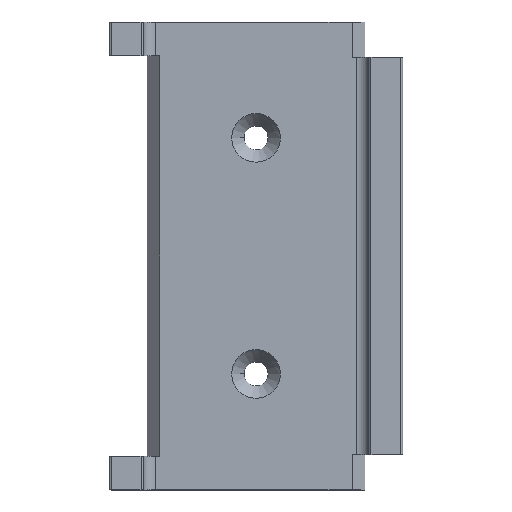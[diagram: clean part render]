
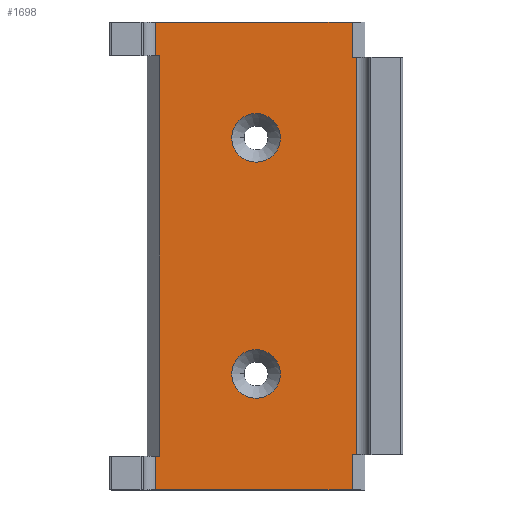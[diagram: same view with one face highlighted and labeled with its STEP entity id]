
A CAD part, top view. The second image highlights one B-rep face of the part: STEP entity #1698.
In plain terms, the highlighted planar face has unit normal (0, 0, 1).
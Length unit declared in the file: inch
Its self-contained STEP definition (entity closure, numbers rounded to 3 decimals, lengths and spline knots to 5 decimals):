
#42=DIRECTION('',(1.,0.,0.));
#43=VECTOR('',#42,1.46);
#44=CARTESIAN_POINT('',(-0.7475,-1.7345,0.));
#45=LINE('',#44,#43);
#403=CARTESIAN_POINT('',(0.0005,-0.8745,0.));
#404=DIRECTION('',(0.,0.,1.));
#405=DIRECTION('',(-1.,0.,0.));
#406=AXIS2_PLACEMENT_3D('',#403,#404,#405);
#408=CARTESIAN_POINT('',(0.0005,-0.8745,0.));
#409=DIRECTION('',(0.,0.,1.));
#410=DIRECTION('',(1.,0.,0.));
#411=AXIS2_PLACEMENT_3D('',#408,#409,#410);
#413=CARTESIAN_POINT('',(0.0005,0.8755,0.));
#414=DIRECTION('',(0.,0.,1.));
#415=DIRECTION('',(-1.,0.,0.));
#416=AXIS2_PLACEMENT_3D('',#413,#414,#415);
#418=CARTESIAN_POINT('',(0.0005,0.8755,0.));
#419=DIRECTION('',(0.,0.,1.));
#420=DIRECTION('',(1.,0.,0.));
#421=AXIS2_PLACEMENT_3D('',#418,#419,#420);
#423=DIRECTION('',(1.,0.,0.));
#424=VECTOR('',#423,0.035);
#425=CARTESIAN_POINT('',(-0.7475,-1.4845,0.));
#426=LINE('',#425,#424);
#427=DIRECTION('',(0.,-1.,0.));
#428=VECTOR('',#427,2.969);
#429=CARTESIAN_POINT('',(-0.7125,1.4845,0.));
#430=LINE('',#429,#428);
#431=DIRECTION('',(1.,0.,0.));
#432=VECTOR('',#431,0.035);
#433=CARTESIAN_POINT('',(-0.7475,1.4845,0.));
#434=LINE('',#433,#432);
#435=DIRECTION('',(0.,1.,0.));
#436=VECTOR('',#435,0.25);
#437=CARTESIAN_POINT('',(-0.7475,1.4845,0.));
#438=LINE('',#437,#436);
#439=DIRECTION('',(0.,-1.,0.));
#440=VECTOR('',#439,0.26);
#441=CARTESIAN_POINT('',(0.7125,1.7345,0.));
#442=LINE('',#441,#440);
#443=DIRECTION('',(-1.,0.,0.));
#444=VECTOR('',#443,0.035);
#445=CARTESIAN_POINT('',(0.7475,1.4745,0.));
#446=LINE('',#445,#444);
#447=DIRECTION('',(0.,1.,0.));
#448=VECTOR('',#447,2.949);
#449=CARTESIAN_POINT('',(0.7475,-1.4745,0.));
#450=LINE('',#449,#448);
#451=DIRECTION('',(-1.,0.,0.));
#452=VECTOR('',#451,0.035);
#453=CARTESIAN_POINT('',(0.7475,-1.4745,0.));
#454=LINE('',#453,#452);
#455=DIRECTION('',(0.,1.,0.));
#456=VECTOR('',#455,0.26);
#457=CARTESIAN_POINT('',(0.7125,-1.7345,0.));
#458=LINE('',#457,#456);
#459=DIRECTION('',(0.,1.,0.));
#460=VECTOR('',#459,0.25);
#461=CARTESIAN_POINT('',(-0.7475,-1.7345,0.));
#462=LINE('',#461,#460);
#664=DIRECTION('',(1.,0.,0.));
#665=VECTOR('',#664,1.46);
#666=CARTESIAN_POINT('',(-0.7475,1.7345,0.));
#667=LINE('',#666,#665);
#897=CARTESIAN_POINT('',(-0.7475,-1.7345,0.));
#899=VERTEX_POINT('',#897);
#902=CARTESIAN_POINT('',(-0.7475,1.7345,0.));
#904=VERTEX_POINT('',#902);
#1021=CARTESIAN_POINT('',(0.7125,1.7345,0.));
#1022=VERTEX_POINT('',#1021);
#1027=CARTESIAN_POINT('',(0.7475,1.4745,0.));
#1028=CARTESIAN_POINT('',(0.7125,1.4745,0.));
#1029=VERTEX_POINT('',#1027);
#1030=VERTEX_POINT('',#1028);
#1059=CARTESIAN_POINT('',(0.7125,-1.7345,0.));
#1060=VERTEX_POINT('',#1059);
#1065=CARTESIAN_POINT('',(0.7475,-1.4745,0.));
#1066=CARTESIAN_POINT('',(0.7125,-1.4745,0.));
#1067=VERTEX_POINT('',#1065);
#1068=VERTEX_POINT('',#1066);
#1097=CARTESIAN_POINT('',(-0.1795,-0.8745,0.));
#1098=CARTESIAN_POINT('',(0.1805,-0.8745,0.));
#1099=VERTEX_POINT('',#1097);
#1100=VERTEX_POINT('',#1098);
#1109=CARTESIAN_POINT('',(-0.1795,0.8755,0.));
#1110=CARTESIAN_POINT('',(0.1805,0.8755,0.));
#1111=VERTEX_POINT('',#1109);
#1112=VERTEX_POINT('',#1110);
#1153=CARTESIAN_POINT('',(-0.7475,-1.4845,0.));
#1154=CARTESIAN_POINT('',(-0.7125,-1.4845,0.));
#1155=VERTEX_POINT('',#1153);
#1156=VERTEX_POINT('',#1154);
#1157=CARTESIAN_POINT('',(-0.7475,1.4845,0.));
#1158=CARTESIAN_POINT('',(-0.7125,1.4845,0.));
#1159=VERTEX_POINT('',#1157);
#1160=VERTEX_POINT('',#1158);
#1658=CARTESIAN_POINT('',(-0.8375,-1.7345,0.));
#1659=DIRECTION('',(0.,0.,1.));
#1660=DIRECTION('',(1.,0.,0.));
#1661=AXIS2_PLACEMENT_3D('',#1658,#1659,#1660);
#1662=PLANE('',#1661);
#1663=ORIENTED_EDGE('',*,*,#1247,.T.);
#1665=ORIENTED_EDGE('',*,*,#1664,.F.);
#1667=ORIENTED_EDGE('',*,*,#1666,.F.);
#1669=ORIENTED_EDGE('',*,*,#1668,.T.);
#1671=ORIENTED_EDGE('',*,*,#1670,.T.);
#1673=ORIENTED_EDGE('',*,*,#1672,.T.);
#1675=ORIENTED_EDGE('',*,*,#1674,.F.);
#1677=ORIENTED_EDGE('',*,*,#1676,.F.);
#1679=ORIENTED_EDGE('',*,*,#1678,.T.);
#1681=ORIENTED_EDGE('',*,*,#1680,.F.);
#1682=ORIENTED_EDGE('',*,*,#1192,.F.);
#1684=ORIENTED_EDGE('',*,*,#1683,.T.);
#1685=EDGE_LOOP('',(#1663,#1665,#1667,#1669,#1671,#1673,#1675,#1677,#1679,#1681,
#1682,#1684));
#1686=FACE_OUTER_BOUND('',#1685,.F.);
#1688=ORIENTED_EDGE('',*,*,#1687,.T.);
#1689=ORIENTED_EDGE('',*,*,#1648,.T.);
#1690=EDGE_LOOP('',(#1688,#1689));
#1691=FACE_BOUND('',#1690,.F.);
#1693=ORIENTED_EDGE('',*,*,#1692,.T.);
#1695=ORIENTED_EDGE('',*,*,#1694,.T.);
#1696=EDGE_LOOP('',(#1693,#1695));
#1697=FACE_BOUND('',#1696,.F.);
#1698=ADVANCED_FACE('',(#1686,#1691,#1697),#1662,.T.);
#407=CIRCLE('',#406,0.18);
#412=CIRCLE('',#411,0.18);
#417=CIRCLE('',#416,0.18);
#422=CIRCLE('',#421,0.18);
#1192=EDGE_CURVE('',#899,#1060,#45,.T.);
#1247=EDGE_CURVE('',#1155,#1156,#426,.T.);
#1648=EDGE_CURVE('',#1112,#1111,#422,.T.);
#1664=EDGE_CURVE('',#1160,#1156,#430,.T.);
#1666=EDGE_CURVE('',#1159,#1160,#434,.T.);
#1668=EDGE_CURVE('',#1159,#904,#438,.T.);
#1670=EDGE_CURVE('',#904,#1022,#667,.T.);
#1672=EDGE_CURVE('',#1022,#1030,#442,.T.);
#1674=EDGE_CURVE('',#1029,#1030,#446,.T.);
#1676=EDGE_CURVE('',#1067,#1029,#450,.T.);
#1678=EDGE_CURVE('',#1067,#1068,#454,.T.);
#1680=EDGE_CURVE('',#1060,#1068,#458,.T.);
#1683=EDGE_CURVE('',#899,#1155,#462,.T.);
#1687=EDGE_CURVE('',#1111,#1112,#417,.T.);
#1692=EDGE_CURVE('',#1099,#1100,#407,.T.);
#1694=EDGE_CURVE('',#1100,#1099,#412,.T.);
